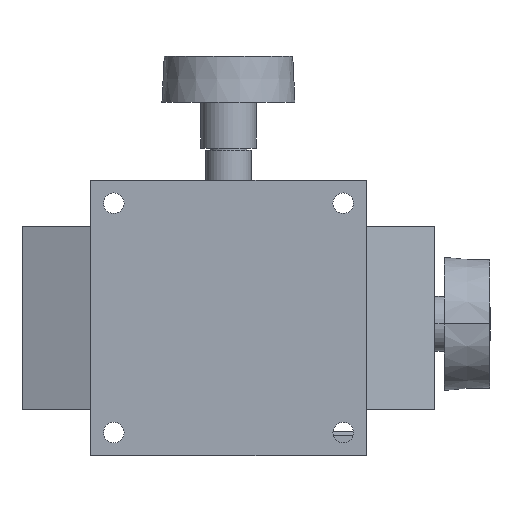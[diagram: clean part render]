
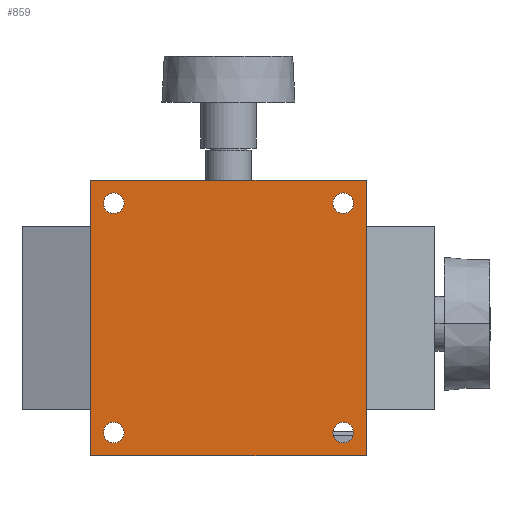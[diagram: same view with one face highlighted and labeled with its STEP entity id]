
A CAD part, front view. The second image highlights one B-rep face of the part: STEP entity #859.
In plain terms, the highlighted planar face has unit normal (0, -1, 0).
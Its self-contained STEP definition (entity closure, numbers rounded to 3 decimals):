
#190 = ORIENTED_EDGE ( 'NONE', *, *, #821, .T. ) ;
#199 = ORIENTED_EDGE ( 'NONE', *, *, #812, .T. ) ;
#207 = VERTEX_POINT ( 'NONE', #1185 ) ;
#214 = VERTEX_POINT ( 'NONE', #1240 ) ;
#217 = ORIENTED_EDGE ( 'NONE', *, *, #808, .T. ) ;
#223 = EDGE_CURVE ( 'NONE', #214, #207, #1225, .T. ) ;
#373 = DIRECTION ( 'NONE',  ( 0., 0., -1. ) ) ;
#385 = VECTOR ( 'NONE', #373, 1000. ) ;
#734 = EDGE_LOOP ( 'NONE', ( #763, #849 ) ) ;
#763 = ORIENTED_EDGE ( 'NONE', *, *, #764, .T. ) ;
#764 = EDGE_CURVE ( 'NONE', #207, #214, #2095, .T. ) ;
#798 = VERTEX_POINT ( 'NONE', #2167 ) ;
#801 = VERTEX_POINT ( 'NONE', #2161 ) ;
#805 = EDGE_CURVE ( 'NONE', #801, #798, #2225, .T. ) ;
#808 = EDGE_CURVE ( 'NONE', #825, #822, #2221, .T. ) ;
#812 = EDGE_CURVE ( 'NONE', #813, #824, #2208, .T. ) ;
#813 = VERTEX_POINT ( 'NONE', #2203 ) ;
#821 = EDGE_CURVE ( 'NONE', #822, #813, #1922, .T. ) ;
#822 = VERTEX_POINT ( 'NONE', #2257 ) ;
#823 = EDGE_CURVE ( 'NONE', #824, #825, #2256, .T. ) ;
#824 = VERTEX_POINT ( 'NONE', #2252 ) ;
#825 = VERTEX_POINT ( 'NONE', #2251 ) ;
#849 = ORIENTED_EDGE ( 'NONE', *, *, #223, .T. ) ;
#850 = EDGE_LOOP ( 'NONE', ( #851, #217, #190, #199 ) ) ;
#851 = ORIENTED_EDGE ( 'NONE', *, *, #823, .T. ) ;
#859 = ADVANCED_FACE ( 'NONE', ( #2266, #2265, #2264, #2263, #2262 ), #2261, .F. ) ;
#860 = EDGE_LOOP ( 'NONE', ( #861, #863 ) ) ;
#861 = ORIENTED_EDGE ( 'NONE', *, *, #862, .T. ) ;
#862 = EDGE_CURVE ( 'NONE', #798, #801, #2321, .T. ) ;
#863 = ORIENTED_EDGE ( 'NONE', *, *, #805, .T. ) ;
#864 = EDGE_LOOP ( 'NONE', ( #6104, #6105 ) ) ;
#1185 = CARTESIAN_POINT ( 'NONE',  ( -27.25, 0., -25. ) ) ;
#1220 = DIRECTION ( 'NONE',  ( -1., 0., 0. ) ) ;
#1221 = DIRECTION ( 'NONE',  ( 0., 1., 0. ) ) ;
#1223 = CARTESIAN_POINT ( 'NONE',  ( -25., 0., -25. ) ) ;
#1224 = AXIS2_PLACEMENT_3D ( 'NONE', #1223, #1221, #1220 ) ;
#1225 = CIRCLE ( 'NONE', #1224, 2.25 ) ;
#1240 = CARTESIAN_POINT ( 'NONE',  ( -22.75, 0., -25. ) ) ;
#1921 = CARTESIAN_POINT ( 'NONE',  ( -30., 0., 30. ) ) ;
#1922 = LINE ( 'NONE', #1921, #385 ) ;
#2091 = DIRECTION ( 'NONE',  ( -1., 0., 0. ) ) ;
#2092 = DIRECTION ( 'NONE',  ( 0., 1., 0. ) ) ;
#2093 = CARTESIAN_POINT ( 'NONE',  ( -25., 0., -25. ) ) ;
#2094 = AXIS2_PLACEMENT_3D ( 'NONE', #2093, #2092, #2091 ) ;
#2095 = CIRCLE ( 'NONE', #2094, 2.25 ) ;
#2153 = CARTESIAN_POINT ( 'NONE',  ( -25., 0., 25. ) ) ;
#2161 = CARTESIAN_POINT ( 'NONE',  ( -22.75, 0., 25. ) ) ;
#2167 = CARTESIAN_POINT ( 'NONE',  ( -27.25, 0., 25. ) ) ;
#2203 = CARTESIAN_POINT ( 'NONE',  ( -30., 0., -30. ) ) ;
#2204 = DIRECTION ( 'NONE',  ( 1., 0., 0. ) ) ;
#2205 = VECTOR ( 'NONE', #2204, 1000. ) ;
#2207 = CARTESIAN_POINT ( 'NONE',  ( 30., 0., -30. ) ) ;
#2208 = LINE ( 'NONE', #2207, #2205 ) ;
#2218 = DIRECTION ( 'NONE',  ( -1., 0., 0. ) ) ;
#2219 = VECTOR ( 'NONE', #2218, 1000. ) ;
#2220 = CARTESIAN_POINT ( 'NONE',  ( 30., 0., 30. ) ) ;
#2221 = LINE ( 'NONE', #2220, #2219 ) ;
#2222 = DIRECTION ( 'NONE',  ( -1., 0., 0. ) ) ;
#2223 = DIRECTION ( 'NONE',  ( 0., 1., 0. ) ) ;
#2224 = AXIS2_PLACEMENT_3D ( 'NONE', #2153, #2223, #2222 ) ;
#2225 = CIRCLE ( 'NONE', #2224, 2.25 ) ;
#2251 = CARTESIAN_POINT ( 'NONE',  ( 30., 0., 30. ) ) ;
#2252 = CARTESIAN_POINT ( 'NONE',  ( 30., 0., -30. ) ) ;
#2253 = DIRECTION ( 'NONE',  ( 0., 0., 1. ) ) ;
#2254 = VECTOR ( 'NONE', #2253, 1000. ) ;
#2255 = CARTESIAN_POINT ( 'NONE',  ( 30., 0., 30. ) ) ;
#2256 = LINE ( 'NONE', #2255, #2254 ) ;
#2257 = CARTESIAN_POINT ( 'NONE',  ( -30., 0., 30. ) ) ;
#2258 = DIRECTION ( 'NONE',  ( 0., 1., 0. ) ) ;
#2259 = CARTESIAN_POINT ( 'NONE',  ( 30., 0., 30. ) ) ;
#2260 = AXIS2_PLACEMENT_3D ( 'NONE', #2259, #2258, #2322 ) ;
#2261 = PLANE ( 'NONE',  #2260 ) ;
#2262 = FACE_OUTER_BOUND ( 'NONE', #850, .T. ) ;
#2263 = FACE_BOUND ( 'NONE', #734, .T. ) ;
#2264 = FACE_BOUND ( 'NONE', #6065, .T. ) ;
#2265 = FACE_BOUND ( 'NONE', #864, .T. ) ;
#2266 = FACE_BOUND ( 'NONE', #860, .T. ) ;
#2317 = DIRECTION ( 'NONE',  ( -1., 0., 0. ) ) ;
#2318 = DIRECTION ( 'NONE',  ( 0., 1., 0. ) ) ;
#2319 = CARTESIAN_POINT ( 'NONE',  ( -25., 0., 25. ) ) ;
#2320 = AXIS2_PLACEMENT_3D ( 'NONE', #2319, #2318, #2317 ) ;
#2321 = CIRCLE ( 'NONE', #2320, 2.25 ) ;
#2322 = DIRECTION ( 'NONE',  ( -1., 0., 0. ) ) ;
#2820 = DIRECTION ( 'NONE',  ( -1., 0., 0. ) ) ;
#2821 = DIRECTION ( 'NONE',  ( 0., 1., 0. ) ) ;
#2822 = CARTESIAN_POINT ( 'NONE',  ( 25., 0., 25. ) ) ;
#2823 = AXIS2_PLACEMENT_3D ( 'NONE', #2822, #2821, #2820 ) ;
#2824 = CIRCLE ( 'NONE', #2823, 2.25 ) ;
#2969 = DIRECTION ( 'NONE',  ( -1., 0., 0. ) ) ;
#2970 = DIRECTION ( 'NONE',  ( 0., 1., 0. ) ) ;
#2972 = CARTESIAN_POINT ( 'NONE',  ( 25., 0., -25. ) ) ;
#2973 = AXIS2_PLACEMENT_3D ( 'NONE', #2972, #2970, #2969 ) ;
#2981 = CIRCLE ( 'NONE', #2973, 2.25 ) ;
#3341 = CARTESIAN_POINT ( 'NONE',  ( 25., 0., 25. ) ) ;
#3342 = AXIS2_PLACEMENT_3D ( 'NONE', #3341, #3403, #3401 ) ;
#3343 = CIRCLE ( 'NONE', #3342, 2.25 ) ;
#3381 = CARTESIAN_POINT ( 'NONE',  ( 27.25, 0., 25. ) ) ;
#3401 = DIRECTION ( 'NONE',  ( -1., 0., 0. ) ) ;
#3403 = DIRECTION ( 'NONE',  ( 0., 1., 0. ) ) ;
#3419 = CARTESIAN_POINT ( 'NONE',  ( 22.75, 0., -25. ) ) ;
#3420 = CARTESIAN_POINT ( 'NONE',  ( 27.25, 0., -25. ) ) ;
#3432 = DIRECTION ( 'NONE',  ( -1., 0., 0. ) ) ;
#3433 = DIRECTION ( 'NONE',  ( 0., 1., 0. ) ) ;
#3434 = CARTESIAN_POINT ( 'NONE',  ( 25., 0., -25. ) ) ;
#3435 = AXIS2_PLACEMENT_3D ( 'NONE', #3434, #3433, #3432 ) ;
#3436 = CIRCLE ( 'NONE', #3435, 2.25 ) ;
#3612 = CARTESIAN_POINT ( 'NONE',  ( 22.75, 0., 25. ) ) ;
#6065 = EDGE_LOOP ( 'NONE', ( #6179, #6181 ) ) ;
#6103 = EDGE_CURVE ( 'NONE', #6575, #6417, #2824, .T. ) ;
#6104 = ORIENTED_EDGE ( 'NONE', *, *, #6103, .T. ) ;
#6105 = ORIENTED_EDGE ( 'NONE', *, *, #6400, .T. ) ;
#6179 = ORIENTED_EDGE ( 'NONE', *, *, #6180, .T. ) ;
#6180 = EDGE_CURVE ( 'NONE', #6432, #6431, #2981, .T. ) ;
#6181 = ORIENTED_EDGE ( 'NONE', *, *, #6425, .T. ) ;
#6400 = EDGE_CURVE ( 'NONE', #6417, #6575, #3343, .T. ) ;
#6417 = VERTEX_POINT ( 'NONE', #3381 ) ;
#6425 = EDGE_CURVE ( 'NONE', #6431, #6432, #3436, .T. ) ;
#6431 = VERTEX_POINT ( 'NONE', #3420 ) ;
#6432 = VERTEX_POINT ( 'NONE', #3419 ) ;
#6575 = VERTEX_POINT ( 'NONE', #3612 ) ;
